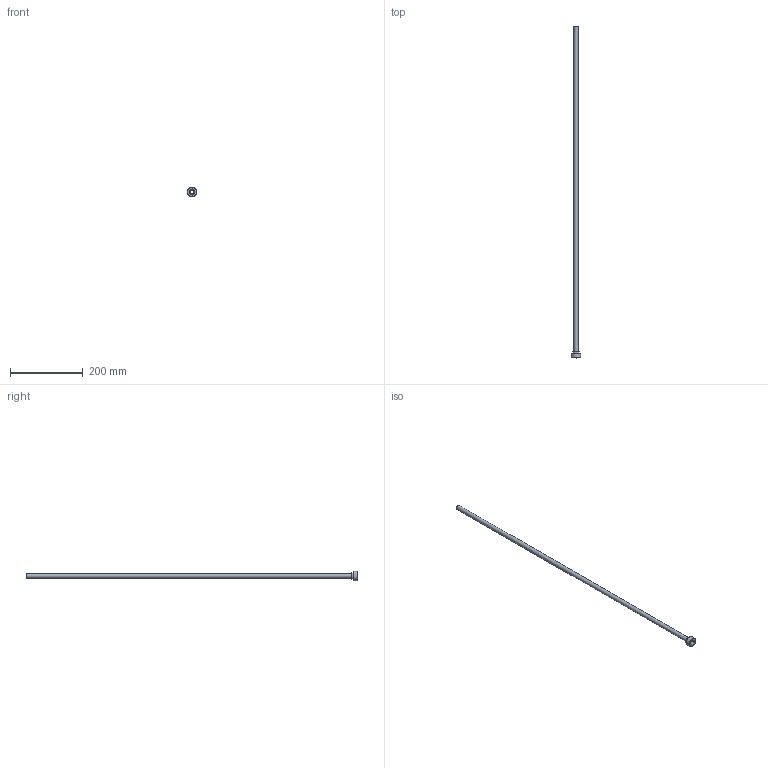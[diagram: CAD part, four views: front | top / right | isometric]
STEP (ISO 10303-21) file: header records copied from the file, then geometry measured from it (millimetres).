
FILE_DESCRIPTION(/* description */ (''),/* implementation_level */ '2;1');
FILE_NAME(/* name */ 'C:/Users/drich/Desktop/PT34-500-36 v1.step',/* time_stamp */ '2019-12-27T15:49:09-06:00',/* author */ (''),/* organization */ (''),/* preprocessor_version */ 'ST-DEVELOPER v18',/* originating_system */ 'Autodesk Translation Framework v8.12.0.6',/* authorisation */ '');
FILE_SCHEMA (('AUTOMOTIVE_DESIGN { 1 0 10303 214 3 1 1 }'));
Length unit declared in the file: inch
Products named in the file (1): PT34-500-36
Bounding box: 26.3 x 914.4 x 26.3 mm (x, y, z)
Volume: 29547.4 mm3; surface area: 70469.7 mm2
Topology: 1 solids, 1 shells, 19 faces, 48 edges, 34 vertices
Faces by surface type: plane 11, cylinder 4, torus 2, cone 2
Full cylindrical faces by diameter (mm): 11.278 x1, 12.7 x1, 19.05 x1, 26.299 x1
Entity records: 633 total; most frequent: DIRECTION 112, CARTESIAN_POINT 102, ORIENTED_EDGE 96, EDGE_CURVE 48, AXIS2_PLACEMENT_3D 44, VERTEX_POINT 34, CIRCLE 24, EDGE_LOOP 24
